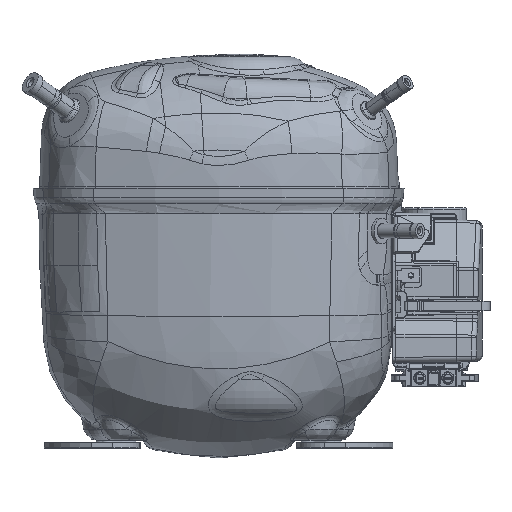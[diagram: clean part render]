
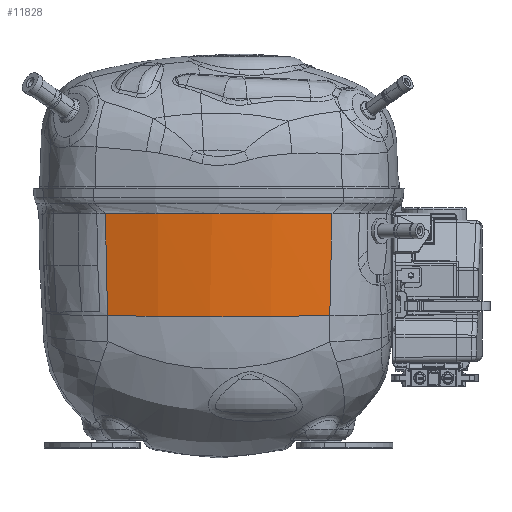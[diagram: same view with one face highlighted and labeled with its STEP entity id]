
A CAD part, top view. The second image highlights one B-rep face of the part: STEP entity #11828.
In plain terms, the highlighted face is a revolution surface.
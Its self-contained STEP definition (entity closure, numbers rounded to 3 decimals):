
#842=CARTESIAN_POINT('',(-67.072,-54.148,
-20.266));
#843=CARTESIAN_POINT('',(-70.373,-43.423,
-20.282));
#844=CARTESIAN_POINT('',(-75.372,-21.477,
-20.306));
#845=CARTESIAN_POINT('',(-77.889,12.191,-20.319));
#846=CARTESIAN_POINT('',(-75.371,45.857,-20.306));
#847=CARTESIAN_POINT('',(-70.373,67.8,-20.282));
#848=CARTESIAN_POINT('',(-67.072,78.524,-20.266));
#860=CARTESIAN_POINT('',(-64.933,-52.867,
-79.773));
#861=CARTESIAN_POINT('',(-66.365,-53.377,
-59.992));
#862=CARTESIAN_POINT('',(-67.086,-53.785,
-40.129));
#863=CARTESIAN_POINT('',(-67.072,-54.148,
-20.266));
#865=CARTESIAN_POINT('',(-67.072,78.524,-20.266));
#866=CARTESIAN_POINT('',(-67.086,78.161,-40.129));
#867=CARTESIAN_POINT('',(-66.365,77.753,-59.992));
#868=CARTESIAN_POINT('',(-64.933,77.243,-79.773));
#2592=CARTESIAN_POINT('',(-64.933,-52.867,
-79.773));
#2593=CARTESIAN_POINT('',(-66.199,-48.655,
-79.875));
#2594=CARTESIAN_POINT('',(-68.483,-40.156,
-80.058));
#2595=CARTESIAN_POINT('',(-71.158,-27.227,
-80.273));
#2596=CARTESIAN_POINT('',(-73.076,-14.164,
-80.426));
#2597=CARTESIAN_POINT('',(-74.232,-1.01,
-80.519));
#2598=CARTESIAN_POINT('',(-74.619,12.188,-80.55));
#2599=CARTESIAN_POINT('',(-74.232,25.386,
-80.519));
#2600=CARTESIAN_POINT('',(-73.076,38.54,
-80.426));
#2601=CARTESIAN_POINT('',(-71.158,51.603,
-80.273));
#2602=CARTESIAN_POINT('',(-68.483,64.532,
-80.058));
#2603=CARTESIAN_POINT('',(-66.199,73.031,
-79.875));
#2604=CARTESIAN_POINT('',(-64.933,77.243,
-79.773));
#9421=VERTEX_POINT('',#2592);
#9422=VERTEX_POINT('',#2604);
#9625=VERTEX_POINT('',#842);
#9626=VERTEX_POINT('',#848);
#11807=CARTESIAN_POINT('',(-67.071,-54.148,
-20.266));
#11808=CARTESIAN_POINT('',(-67.885,-51.505,
-20.27));
#11809=CARTESIAN_POINT('',(-74.095,-29.934,
-20.3));
#11810=CARTESIAN_POINT('',(-79.641,12.188,-20.328));
#11811=CARTESIAN_POINT('',(-74.095,54.31,
-20.3));
#11812=CARTESIAN_POINT('',(-67.885,75.881,
-20.27));
#11813=CARTESIAN_POINT('',(-67.071,78.524,
-20.266));
#11815=CARTESIAN_POINT('',(725.94,13.188,-16.355));
#11816=DIRECTION('',(0.,-1.,0.));
#11817=AXIS1_PLACEMENT('',#11815,#11816);
#11818=SURFACE_OF_REVOLUTION('',#11814,#11817);
#11819=ORIENTED_EDGE('',*,*,#11797,.F.);
#11821=ORIENTED_EDGE('',*,*,#11820,.F.);
#11823=ORIENTED_EDGE('',*,*,#11822,.T.);
#11825=ORIENTED_EDGE('',*,*,#11824,.F.);
#11826=EDGE_LOOP('',(#11819,#11821,#11823,#11825));
#11827=FACE_OUTER_BOUND('',#11826,.F.);
#849=B_SPLINE_CURVE_WITH_KNOTS('',3,(#842,#843,#844,#845,#846,#847,#848),
.UNSPECIFIED.,.F.,.F.,(4,1,1,1,4),(0.,0.25,0.5,
0.75,1.),.UNSPECIFIED.);
#864=B_SPLINE_CURVE_WITH_KNOTS('',3,(#860,#861,#862,#863),.UNSPECIFIED.,.F.,.F.,
(4,4),(0.,1.),.UNSPECIFIED.);
#869=B_SPLINE_CURVE_WITH_KNOTS('',3,(#865,#866,#867,#868),.UNSPECIFIED.,.F.,.F.,
(4,4),(0.,1.),.UNSPECIFIED.);
#2605=B_SPLINE_CURVE_WITH_KNOTS('',3,(#2592,#2593,#2594,#2595,#2596,#2597,#2598,
#2599,#2600,#2601,#2602,#2603,#2604),.UNSPECIFIED.,.F.,.F.,(4,1,1,1,1,1,1,1,1,1,
4),(0.,0.1,0.2,0.3,0.4,0.5,0.6,0.7,0.8,0.9,1.),
.UNSPECIFIED.);
#11797=EDGE_CURVE('',#9625,#9626,#849,.T.);
#11814=B_SPLINE_CURVE_WITH_KNOTS('',3,(#11807,#11808,#11809,#11810,#11811,
#11812,#11813),.UNSPECIFIED.,.F.,.F.,(4,1,1,1,4),(0.,0.062,
0.5,0.938,1.),.UNSPECIFIED.);
#11820=EDGE_CURVE('',#9421,#9625,#864,.T.);
#11822=EDGE_CURVE('',#9421,#9422,#2605,.T.);
#11824=EDGE_CURVE('',#9626,#9422,#869,.T.);
#11828=ADVANCED_FACE('',(#11827),#11818,.F.);
